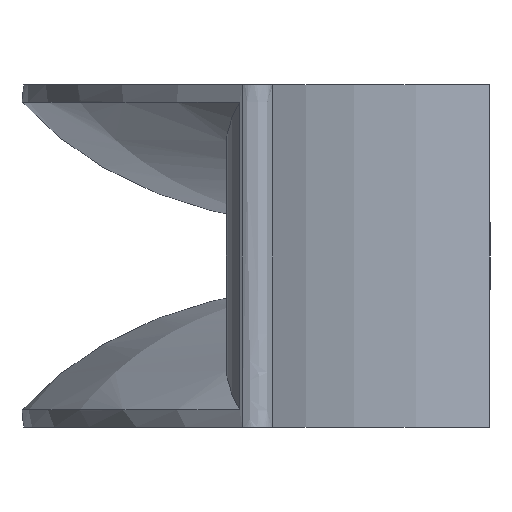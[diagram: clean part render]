
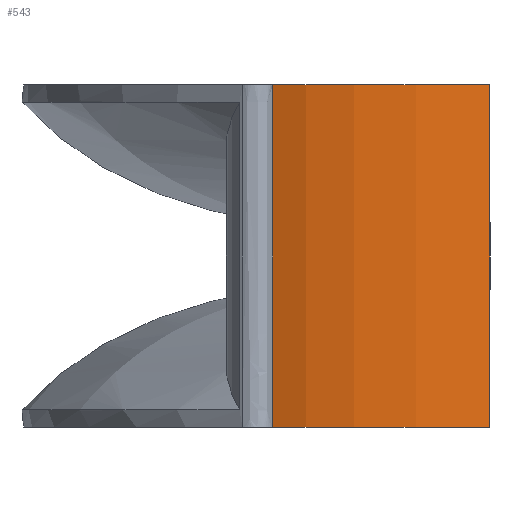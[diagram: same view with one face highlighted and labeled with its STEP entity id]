
A CAD part, left-side view. The second image highlights one B-rep face of the part: STEP entity #543.
In plain terms, the highlighted cylindrical face has radius 443.13 mm (diameter 886.261 mm), a partial arc.
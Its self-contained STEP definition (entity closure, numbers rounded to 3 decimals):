
#18=CYLINDRICAL_SURFACE('',#575,443.13);
#22=CIRCLE('',#566,443.13);
#27=CIRCLE('',#572,443.13);
#63=LINE('',#25403,#83);
#83=VECTOR('',#622,10.);
#120=FACE_OUTER_BOUND('',#159,.T.);
#159=EDGE_LOOP('',(#464,#465,#466,#467));
#187=B_SPLINE_CURVE_WITH_KNOTS('',3,(#16304,#16305,#16306,#16307,#16308,
#16309,#16310,#16311,#16312,#16313,#16314,#16315,#16316,#16317,#16318,#16319,
#16320,#16321,#16322,#16323,#16324,#16325,#16326,#16327,#16328,#16329),
 .UNSPECIFIED.,.F.,.F.,(4,2,2,2,2,1,1,1,1,2,2,2,2,2,4),(-0.002,
1.208,1.301,4.155,7.103,10.051,
12.998,14.472,15.946,18.894,21.842,
23.317,24.696,24.789,25.998),
 .UNSPECIFIED.);
#228=VERTEX_POINT('',#16089);
#231=VERTEX_POINT('',#16212);
#235=VERTEX_POINT('',#16505);
#243=VERTEX_POINT('',#19025);
#291=EDGE_CURVE('',#231,#228,#187,.T.);
#296=EDGE_CURVE('',#235,#231,#22,.T.);
#305=EDGE_CURVE('',#228,#243,#27,.T.);
#329=EDGE_CURVE('',#243,#235,#63,.T.);
#464=ORIENTED_EDGE('',*,*,#291,.F.);
#465=ORIENTED_EDGE('',*,*,#296,.F.);
#466=ORIENTED_EDGE('',*,*,#329,.F.);
#467=ORIENTED_EDGE('',*,*,#305,.F.);
#543=ADVANCED_FACE('',(#120),#18,.F.);
#566=AXIS2_PLACEMENT_3D('',#16507,#594,#595);
#572=AXIS2_PLACEMENT_3D('',#19026,#608,#609);
#575=AXIS2_PLACEMENT_3D('',#25402,#620,#621);
#594=DIRECTION('center_axis',(0.,0.,1.));
#595=DIRECTION('ref_axis',(0.212,0.977,0.));
#608=DIRECTION('center_axis',(0.,0.,-1.));
#609=DIRECTION('ref_axis',(0.212,0.977,0.));
#620=DIRECTION('center_axis',(0.,0.,-1.));
#621=DIRECTION('ref_axis',(0.212,0.977,0.));
#622=DIRECTION('',(0.,0.,-1.));
#16089=CARTESIAN_POINT('',(-309.828,165.117,130.));
#16212=CARTESIAN_POINT('',(-309.828,165.117,-130.));
#16304=CARTESIAN_POINT('Ctrl Pts',(-309.828,165.117,-130.));
#16305=CARTESIAN_POINT('Ctrl Pts',(-309.832,165.119,-125.969));
#16306=CARTESIAN_POINT('Ctrl Pts',(-309.836,165.12,-121.937));
#16307=CARTESIAN_POINT('Ctrl Pts',(-309.84,165.121,-117.595));
#16308=CARTESIAN_POINT('Ctrl Pts',(-309.84,165.121,-117.285));
#16309=CARTESIAN_POINT('Ctrl Pts',(-309.845,165.122,-107.462));
#16310=CARTESIAN_POINT('Ctrl Pts',(-309.839,165.12,-97.948));
#16311=CARTESIAN_POINT('Ctrl Pts',(-309.848,165.123,-78.609));
#16312=CARTESIAN_POINT('Ctrl Pts',(-309.85,165.123,-68.783));
#16313=CARTESIAN_POINT('Ctrl Pts',(-309.855,165.125,-49.131));
#16314=CARTESIAN_POINT('Ctrl Pts',(-309.859,165.126,-29.478));
#16315=CARTESIAN_POINT('Ctrl Pts',(-309.86,165.126,-4.913));
#16316=CARTESIAN_POINT('Ctrl Pts',(-309.86,165.126,14.739));
#16317=CARTESIAN_POINT('Ctrl Pts',(-309.858,165.125,34.392));
#16318=CARTESIAN_POINT('Ctrl Pts',(-309.855,165.125,49.131));
#16319=CARTESIAN_POINT('Ctrl Pts',(-309.851,165.124,68.783));
#16320=CARTESIAN_POINT('Ctrl Pts',(-309.848,165.123,78.609));
#16321=CARTESIAN_POINT('Ctrl Pts',(-309.843,165.121,93.35));
#16322=CARTESIAN_POINT('Ctrl Pts',(-309.839,165.12,98.266));
#16323=CARTESIAN_POINT('Ctrl Pts',(-309.838,165.12,107.779));
#16324=CARTESIAN_POINT('Ctrl Pts',(-309.844,165.122,112.377));
#16325=CARTESIAN_POINT('Ctrl Pts',(-309.841,165.121,117.285));
#16326=CARTESIAN_POINT('Ctrl Pts',(-309.84,165.121,117.595));
#16327=CARTESIAN_POINT('Ctrl Pts',(-309.836,165.12,121.937));
#16328=CARTESIAN_POINT('Ctrl Pts',(-309.832,165.119,125.969));
#16329=CARTESIAN_POINT('Ctrl Pts',(-309.828,165.117,130.));
#16505=CARTESIAN_POINT('',(-67.5,0.,-130.));
#16507=CARTESIAN_POINT('Origin',(-424.132,-263.017,-130.));
#19025=CARTESIAN_POINT('',(-67.5,0.,130.));
#19026=CARTESIAN_POINT('Origin',(-424.132,-263.017,130.));
#25402=CARTESIAN_POINT('Origin',(-424.132,-263.017,0.));
#25403=CARTESIAN_POINT('',(-67.5,0.,0.));
